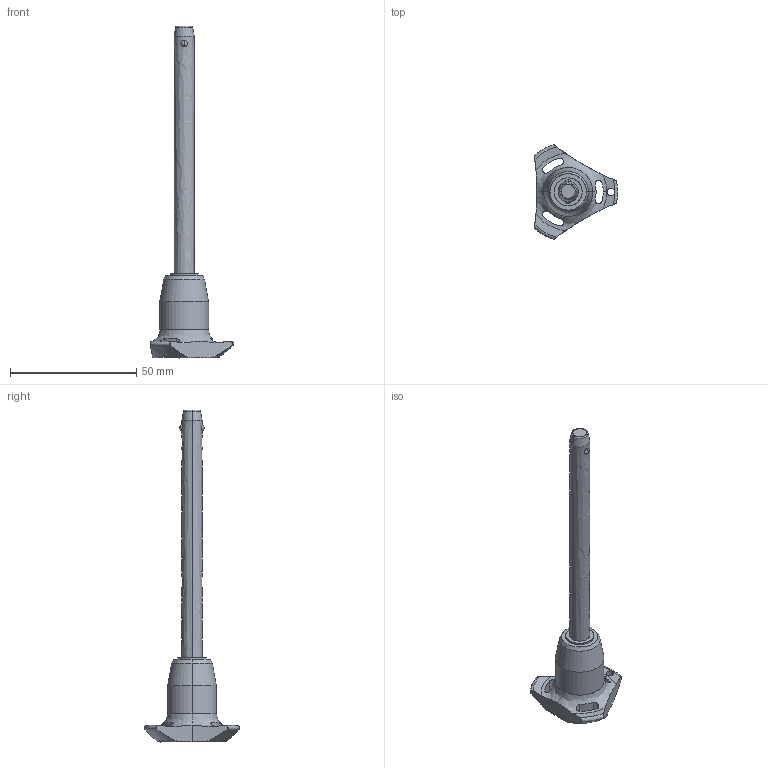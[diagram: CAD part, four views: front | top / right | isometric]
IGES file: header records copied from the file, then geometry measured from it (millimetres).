
Start section: SolidWorks IGES file using analytic representation for surfaces
Global section: file name: C:\Users\ianosborn\Desktop\QR1704_v2\QR1704_v2_20251111_IGES\QR1704.M08-090-S.igs; native system: SolidWorks 2019; preprocessor: SolidWorks 2019; author: IanOsborn; date: 251112.091736; units: millimetre
Bounding box: 33 x 37.51 x 131.5 mm (x, y, z)
Surface area: 6316.5 mm2 (no closed solid volume)
Topology: 0 solids, 0 shells, 65 faces, 1274 edges, 1270 vertices
Faces by surface type: revolution 50, bspline 15
